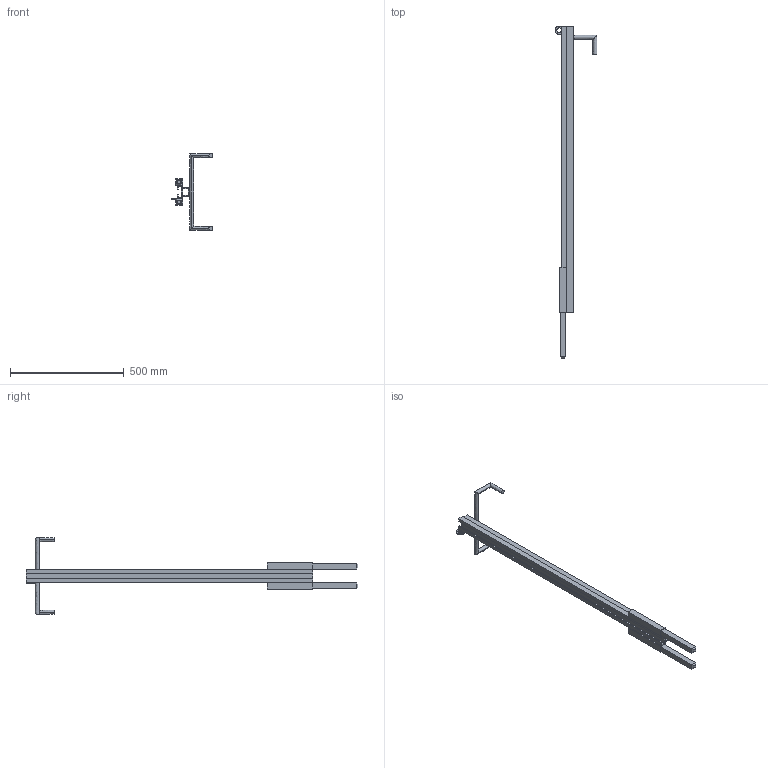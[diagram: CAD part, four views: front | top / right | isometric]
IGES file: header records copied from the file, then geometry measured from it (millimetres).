
Start section:  PTC IGES file: 52170708.igs
Global section: file name: 52170708.igs; native system: Creo Parametric by PTC Inc.; preprocessor: 2023154; author: hrl; organization: Unknown; date: 20231212.134931; units: millimetre
Bounding box: 184.5 x 1460 x 338 mm (x, y, z)
Surface area: 631637.6 mm2 (no closed solid volume)
Topology: 0 solids, 0 shells, 67 faces, 336 edges, 336 vertices
Faces by surface type: bspline 53, revolution 14
